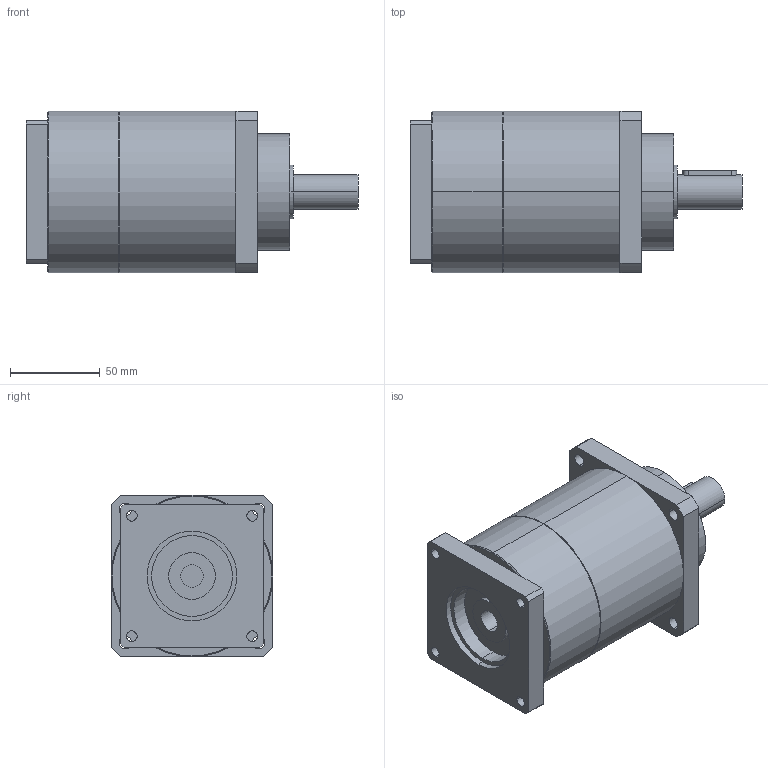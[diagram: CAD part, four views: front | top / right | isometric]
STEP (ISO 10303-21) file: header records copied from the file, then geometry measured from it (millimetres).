
FILE_DESCRIPTION(('CoCreate Modeling STEP Export'),'2;1');
FILE_NAME('GPT90_ig-9-12-16-20-25-28-35-40-50-70-100_19_B5T_12.7_P21.stp','2015-02-04T11:27:47',(''),(''),'CoCreate Modeling STEP processor for AP214 (Solid Model)','CoCreate Modeling 16.00C 25-Feb-2009 (C) Parametric Technology GmbH','');
FILE_SCHEMA(('AUTOMOTIVE_DESIGN { 1 0 10303 214 1 1 1 1 }'));
Length unit declared in the file: millimetre
Products named in the file (2): GPT90_ig-9-12-16-20-25-28-35-40-50-70-100_19_B5T_12.7_P21
Assembly tree (1 placements, depth 2):
  GPT90_ig-9-12-16-20-25-28-35-40-50-70-100_19_B5T_12.7_P21
    GPT90_ig-9-12-16-20-25-28-35-40-50-70-100_19_B5T_12.7_P21
Bounding box: 185 x 90 x 90 mm (x, y, z)
Volume: 886060.9 mm3; surface area: 66452 mm2
Topology: 1 solids, 1 shells, 84 faces, 229 edges, 152 vertices
Faces by surface type: cylinder 46, plane 34, cone 4
Entity records: 2719 total; most frequent: CARTESIAN_POINT 758, ORIENTED_EDGE 458, DIRECTION 330, EDGE_CURVE 229, VERTEX_POINT 152, AXIS2_PLACEMENT_3D 121, EDGE_LOOP 105, VECTOR 88
